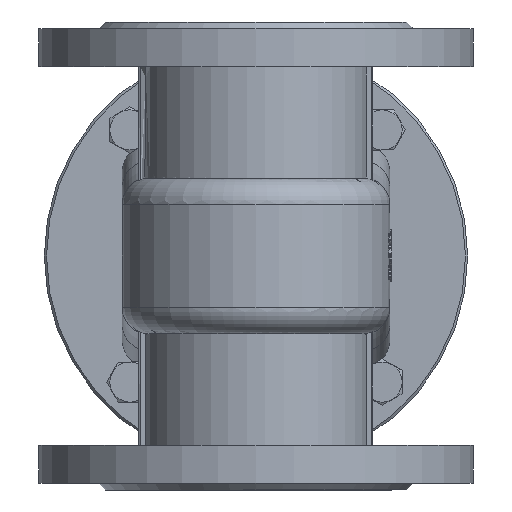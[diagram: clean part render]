
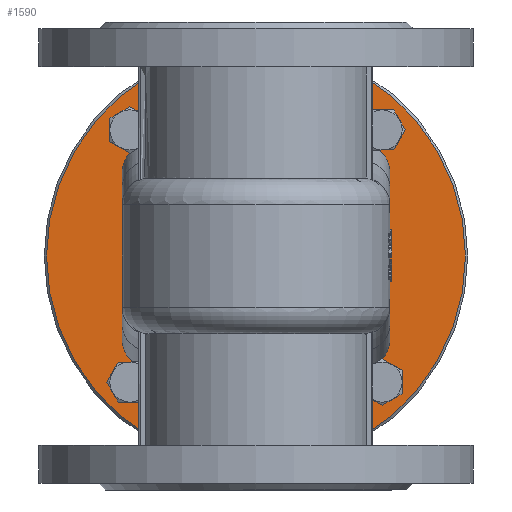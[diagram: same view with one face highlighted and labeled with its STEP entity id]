
A CAD part, front view. The second image highlights one B-rep face of the part: STEP entity #1590.
In plain terms, the highlighted planar face has unit normal (0, -1, 0).
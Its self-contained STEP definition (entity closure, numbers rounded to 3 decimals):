
#1590=ADVANCED_FACE('',(#8398,#8400),#8402,.F.);
#8398=FACE_BOUND('',#8399,.T.);
#8399=EDGE_LOOP('',(#15621));
#8400=FACE_BOUND('',#8401,.T.);
#8401=EDGE_LOOP('',(#15622,#15623,#15624,#15625,#15626,#15627,#15628,#15629,#15630,
#15631,#15632,#15633,#15634,#15635,#15636,#15637));
#8402=PLANE('',#8403);
#8403=AXIS2_PLACEMENT_3D('',#8404,#8405,#8406);
#8404=CARTESIAN_POINT('',(0.,130.,0.));
#8405=DIRECTION('',(0.,1.,0.));
#8406=DIRECTION('',(0.,0.,1.));
#15621=ORIENTED_EDGE('',*,*,#19270,.F.);
#15622=ORIENTED_EDGE('',*,*,#19267,.F.);
#15623=ORIENTED_EDGE('',*,*,#19271,.F.);
#15624=ORIENTED_EDGE('',*,*,#19272,.F.);
#15625=ORIENTED_EDGE('',*,*,#19273,.F.);
#15626=ORIENTED_EDGE('',*,*,#19274,.F.);
#15627=ORIENTED_EDGE('',*,*,#19275,.F.);
#15628=ORIENTED_EDGE('',*,*,#19276,.T.);
#15629=ORIENTED_EDGE('',*,*,#19277,.F.);
#15630=ORIENTED_EDGE('',*,*,#19278,.T.);
#15631=ORIENTED_EDGE('',*,*,#19279,.T.);
#15632=ORIENTED_EDGE('',*,*,#19280,.T.);
#15633=ORIENTED_EDGE('',*,*,#19281,.F.);
#15634=ORIENTED_EDGE('',*,*,#19282,.T.);
#15635=ORIENTED_EDGE('',*,*,#18784,.F.);
#15636=ORIENTED_EDGE('',*,*,#19265,.F.);
#15637=ORIENTED_EDGE('',*,*,#19283,.F.);
#18784=EDGE_CURVE('',#20807,#20809,#20810,.T.);
#19265=EDGE_CURVE('',#21614,#20807,#21616,.T.);
#19267=EDGE_CURVE('',#21617,#21619,#21620,.T.);
#19270=EDGE_CURVE('',#21624,#21624,#21625,.T.);
#19271=EDGE_CURVE('',#21626,#21617,#21627,.T.);
#19272=EDGE_CURVE('',#21628,#21626,#21629,.T.);
#19273=EDGE_CURVE('',#21630,#21628,#21631,.F.);
#19274=EDGE_CURVE('',#21632,#21630,#21633,.T.);
#19275=EDGE_CURVE('',#21634,#21632,#21635,.T.);
#19276=EDGE_CURVE('',#21634,#21636,#21637,.T.);
#19277=EDGE_CURVE('',#21638,#21636,#21639,.F.);
#19278=EDGE_CURVE('',#21638,#21640,#21641,.T.);
#19279=EDGE_CURVE('',#21640,#21642,#21643,.T.);
#19280=EDGE_CURVE('',#21642,#21644,#21645,.T.);
#19281=EDGE_CURVE('',#21646,#21644,#21647,.F.);
#19282=EDGE_CURVE('',#21646,#20809,#21648,.T.);
#19283=EDGE_CURVE('',#21619,#21614,#21649,.F.);
#20807=VERTEX_POINT('',#24149);
#20809=VERTEX_POINT('',#24153);
#20810=LINE('',#24154,#24155);
#21614=VERTEX_POINT('',#28326);
#21616=(BOUNDED_CURVE()B_SPLINE_CURVE(3,
(#28346,#28347,#28348,#28349),
.UNSPECIFIED.,.F.,.F.)B_SPLINE_CURVE_WITH_KNOTS((4,4),
(0.,1.),
.UNSPECIFIED.)CURVE()GEOMETRIC_REPRESENTATION_ITEM()RATIONAL_B_SPLINE_CURVE((1.,
0.926,0.926,1.))REPRESENTATION_ITEM(''));
#21617=VERTEX_POINT('',#28350);
#21619=VERTEX_POINT('',#28354);
#21620=(BOUNDED_CURVE()B_SPLINE_CURVE(3,
(#28355,#28356,#28357,#28358),
.UNSPECIFIED.,.F.,.F.)B_SPLINE_CURVE_WITH_KNOTS((4,4),
(0.,1.),
.UNSPECIFIED.)CURVE()GEOMETRIC_REPRESENTATION_ITEM()RATIONAL_B_SPLINE_CURVE((1.,
0.995,0.995,1.))REPRESENTATION_ITEM(''));
#21624=VERTEX_POINT('',#28382);
#21625=CIRCLE('',#28383,94.);
#21626=VERTEX_POINT('',#28387);
#21627=LINE('',#28388,#28389);
#21628=VERTEX_POINT('',#28391);
#21629=(BOUNDED_CURVE()B_SPLINE_CURVE(3,
(#28392,#28393,#28394,#28395),
.UNSPECIFIED.,.F.,.F.)B_SPLINE_CURVE_WITH_KNOTS((4,4),
(0.,1.),
.UNSPECIFIED.)CURVE()GEOMETRIC_REPRESENTATION_ITEM()RATIONAL_B_SPLINE_CURVE((1.,
0.995,0.995,1.))REPRESENTATION_ITEM(''));
#21630=VERTEX_POINT('',#28396);
#21631=CIRCLE('',#28397,9.);
#21632=VERTEX_POINT('',#28401);
#21633=(BOUNDED_CURVE()B_SPLINE_CURVE(3,
(#28402,#28403,#28404,#28405),
.UNSPECIFIED.,.F.,.F.)B_SPLINE_CURVE_WITH_KNOTS((4,4),
(0.,1.),
.UNSPECIFIED.)CURVE()GEOMETRIC_REPRESENTATION_ITEM()RATIONAL_B_SPLINE_CURVE((1.,
0.926,0.926,1.))REPRESENTATION_ITEM(''));
#21634=VERTEX_POINT('',#28406);
#21635=LINE('',#28407,#28408);
#21636=VERTEX_POINT('',#28410);
#21637=(BOUNDED_CURVE()B_SPLINE_CURVE(3,
(#28411,#28412,#28413,#28414),
.UNSPECIFIED.,.F.,.F.)B_SPLINE_CURVE_WITH_KNOTS((4,4),
(0.,1.),
.UNSPECIFIED.)CURVE()GEOMETRIC_REPRESENTATION_ITEM()RATIONAL_B_SPLINE_CURVE((1.,
0.926,0.926,1.))REPRESENTATION_ITEM(''));
#21638=VERTEX_POINT('',#28415);
#21639=CIRCLE('',#28416,9.);
#21640=VERTEX_POINT('',#28420);
#21641=(BOUNDED_CURVE()B_SPLINE_CURVE(3,
(#28421,#28422,#28423,#28424),
.UNSPECIFIED.,.F.,.F.)B_SPLINE_CURVE_WITH_KNOTS((4,4),
(0.,1.),
.UNSPECIFIED.)CURVE()GEOMETRIC_REPRESENTATION_ITEM()RATIONAL_B_SPLINE_CURVE((1.,
0.995,0.995,1.))REPRESENTATION_ITEM(''));
#21642=VERTEX_POINT('',#28425);
#21643=LINE('',#28426,#28427);
#21644=VERTEX_POINT('',#28429);
#21645=(BOUNDED_CURVE()B_SPLINE_CURVE(3,
(#28430,#28431,#28432,#28433),
.UNSPECIFIED.,.F.,.F.)B_SPLINE_CURVE_WITH_KNOTS((4,4),
(0.,1.),
.UNSPECIFIED.)CURVE()GEOMETRIC_REPRESENTATION_ITEM()RATIONAL_B_SPLINE_CURVE((1.,
0.995,0.995,1.))REPRESENTATION_ITEM(''));
#21646=VERTEX_POINT('',#28434);
#21647=CIRCLE('',#28435,9.);
#21648=(BOUNDED_CURVE()B_SPLINE_CURVE(3,
(#28439,#28440,#28441,#28442),
.UNSPECIFIED.,.F.,.F.)B_SPLINE_CURVE_WITH_KNOTS((4,4),
(0.,1.),
.UNSPECIFIED.)CURVE()GEOMETRIC_REPRESENTATION_ITEM()RATIONAL_B_SPLINE_CURVE((1.,
0.926,0.926,1.))REPRESENTATION_ITEM(''));
#21649=CIRCLE('',#28443,9.);
#24149=CARTESIAN_POINT('',(60.,130.,-37.631));
#24153=CARTESIAN_POINT('',(60.,130.,37.631));
#24154=CARTESIAN_POINT('',(60.,130.,-37.631));
#24155=VECTOR('',#24156,1.);
#24156=DIRECTION('',(0.,0.,1.));
#28326=CARTESIAN_POINT('',(54.948,130.,-47.716));
#28346=CARTESIAN_POINT('',(54.948,130.,-47.716));
#28347=CARTESIAN_POINT('',(58.181,130.,-45.349));
#28348=CARTESIAN_POINT('',(60.,130.,-41.718));
#28349=CARTESIAN_POINT('',(60.,130.,-37.631));
#28350=CARTESIAN_POINT('',(48.,130.,-50.));
#28354=CARTESIAN_POINT('',(50.803,130.,-49.658));
#28355=CARTESIAN_POINT('',(48.,130.,-50.));
#28356=CARTESIAN_POINT('',(48.945,130.,-50.));
#28357=CARTESIAN_POINT('',(49.884,130.,-49.885));
#28358=CARTESIAN_POINT('',(50.803,130.,-49.658));
#28382=CARTESIAN_POINT('',(94.,130.,0.));
#28383=AXIS2_PLACEMENT_3D('',#28384,#28385,#28386);
#28384=CARTESIAN_POINT('',(0.,130.,0.));
#28385=DIRECTION('',(0.,1.,0.));
#28386=DIRECTION('',(1.,0.,0.));
#28387=CARTESIAN_POINT('',(-48.,130.,-50.));
#28388=CARTESIAN_POINT('',(-48.,130.,-50.));
#28389=VECTOR('',#28390,1.);
#28390=DIRECTION('',(1.,0.,0.));
#28391=CARTESIAN_POINT('',(-50.803,130.,-49.658));
#28392=CARTESIAN_POINT('',(-50.803,130.,-49.658));
#28393=CARTESIAN_POINT('',(-49.884,130.,-49.885));
#28394=CARTESIAN_POINT('',(-48.945,130.,-50.));
#28395=CARTESIAN_POINT('',(-48.,130.,-50.));
#28396=CARTESIAN_POINT('',(-54.948,130.,-47.716));
#28397=AXIS2_PLACEMENT_3D('',#28398,#28399,#28400);
#28398=CARTESIAN_POINT('',(-56.569,130.,-56.569));
#28399=DIRECTION('',(0.,1.,0.));
#28400=DIRECTION('',(0.641,0.,0.768));
#28401=CARTESIAN_POINT('',(-60.,130.,-37.631));
#28402=CARTESIAN_POINT('',(-60.,130.,-37.631));
#28403=CARTESIAN_POINT('',(-60.,130.,-41.718));
#28404=CARTESIAN_POINT('',(-58.181,130.,-45.349));
#28405=CARTESIAN_POINT('',(-54.948,130.,-47.716));
#28406=CARTESIAN_POINT('',(-60.,130.,37.631));
#28407=CARTESIAN_POINT('',(-60.,130.,37.631));
#28408=VECTOR('',#28409,1.);
#28409=DIRECTION('',(0.,0.,-1.));
#28410=CARTESIAN_POINT('',(-54.948,130.,47.716));
#28411=CARTESIAN_POINT('',(-60.,130.,37.631));
#28412=CARTESIAN_POINT('',(-60.,130.,41.718));
#28413=CARTESIAN_POINT('',(-58.181,130.,45.349));
#28414=CARTESIAN_POINT('',(-54.948,130.,47.716));
#28415=CARTESIAN_POINT('',(-50.803,130.,49.658));
#28416=AXIS2_PLACEMENT_3D('',#28417,#28418,#28419);
#28417=CARTESIAN_POINT('',(-56.569,130.,56.569));
#28418=DIRECTION('',(0.,1.,0.));
#28419=DIRECTION('',(0.18,0.,-0.984));
#28420=CARTESIAN_POINT('',(-48.,130.,50.));
#28421=CARTESIAN_POINT('',(-50.803,130.,49.658));
#28422=CARTESIAN_POINT('',(-49.884,130.,49.885));
#28423=CARTESIAN_POINT('',(-48.945,130.,50.));
#28424=CARTESIAN_POINT('',(-48.,130.,50.));
#28425=CARTESIAN_POINT('',(48.,130.,50.));
#28426=CARTESIAN_POINT('',(-48.,130.,50.));
#28427=VECTOR('',#28428,1.);
#28428=DIRECTION('',(1.,0.,0.));
#28429=CARTESIAN_POINT('',(50.803,130.,49.658));
#28430=CARTESIAN_POINT('',(48.,130.,50.));
#28431=CARTESIAN_POINT('',(48.945,130.,50.));
#28432=CARTESIAN_POINT('',(49.884,130.,49.885));
#28433=CARTESIAN_POINT('',(50.803,130.,49.658));
#28434=CARTESIAN_POINT('',(54.948,130.,47.716));
#28435=AXIS2_PLACEMENT_3D('',#28436,#28437,#28438);
#28436=CARTESIAN_POINT('',(56.569,130.,56.569));
#28437=DIRECTION('',(0.,1.,0.));
#28438=DIRECTION('',(-0.641,0.,-0.768));
#28439=CARTESIAN_POINT('',(54.948,130.,47.716));
#28440=CARTESIAN_POINT('',(58.181,130.,45.349));
#28441=CARTESIAN_POINT('',(60.,130.,41.718));
#28442=CARTESIAN_POINT('',(60.,130.,37.631));
#28443=AXIS2_PLACEMENT_3D('',#28444,#28445,#28446);
#28444=CARTESIAN_POINT('',(56.569,130.,-56.569));
#28445=DIRECTION('',(0.,1.,0.));
#28446=DIRECTION('',(-0.18,0.,0.984));
